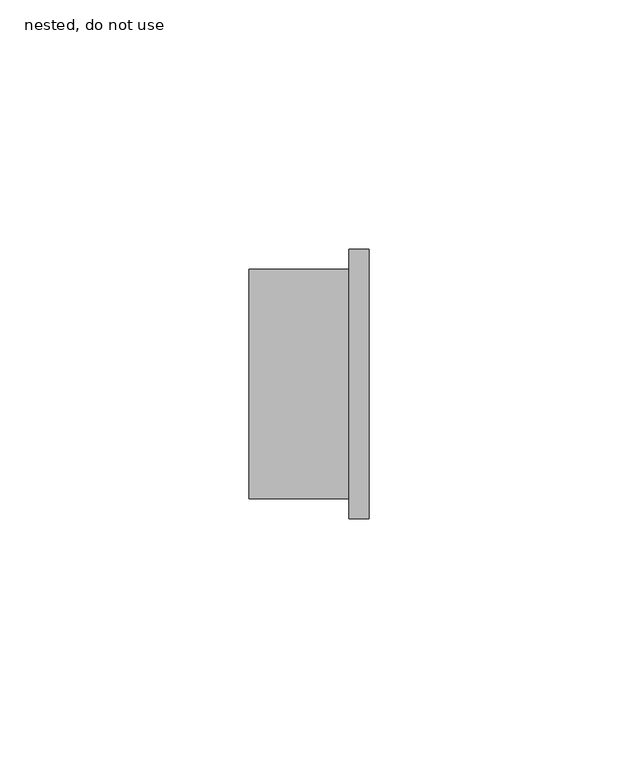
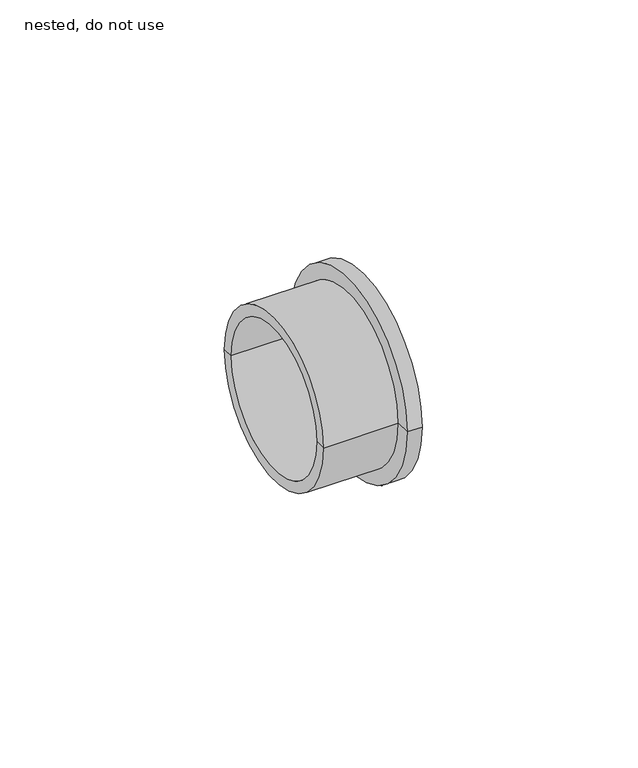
"""IFC4 building model written with IfcOpenShell, lengths in millimetres: pipe fitting geometry, NLRS_52_PIF_UN_HDPE rubber sleeve -SH_Akatherm : nested, do not use."""

from ifc_helpers import new_model, si_unit, frame, origin, place, context, project, spatial, polyline, circle_curve, source, transform, mapped, element, save
from ifc_brep_helpers import plane_surface, cylinder_surface, revolved_surface, advanced_brep


def nested_do_not_use_269007d1(model_context):
    return source(origin(), model_context, "Body", "AdvancedBrep", [
        advanced_brep(
        [(8.0, -23.0, 0.0), (8.0, 23.0, 0.0), (8.0, 27.0, 0.0), (8.0, -27.0, 0.0), (-12.0, -23.0, 0.0), (-12.0, 23.0, 0.0), (-12.0, -20.0, 0.0), (-12.0, 20.0, 0.0), (12.0, -20.0, 0.0), (12.0, 20.0, 0.0), (12.0, -27.0, 0.0), (12.0, 27.0, 0.0)],
        [
            (0, 1, circle_curve(frame((8.0, 0.0, 0.0), z_axis=(1.0, 0.0, 0.0), x_axis=(0.0, 1.0, 0.0)), 23.0)),
            (1, 2),
            (2, 3, circle_curve(frame((8.0, 0.0, 0.0), z_axis=(-1.0, 0.0, 0.0), x_axis=(0.0, 1.0, 0.0)), 27.0)),
            (3, 0),
            (1, 0, circle_curve(frame((8.0, 0.0, 0.0), z_axis=(1.0, 0.0, 0.0), x_axis=(0.0, 1.0, 0.0)), 23.0)),
            (3, 2, circle_curve(frame((8.0, 0.0, 0.0), z_axis=(-1.0, 0.0, 0.0), x_axis=(0.0, 1.0, 0.0)), 27.0)),
            (4, 5, circle_curve(frame((-12.0, 0.0, 0.0), z_axis=(1.0, 0.0, 0.0), x_axis=(0.0, 1.0, 0.0)), 23.0)),
            (5, 1),
            (0, 4),
            (5, 4, circle_curve(frame((-12.0, 0.0, 0.0), z_axis=(1.0, 0.0, 0.0), x_axis=(0.0, 1.0, 0.0)), 23.0)),
            (6, 7, circle_curve(frame((-12.0, 0.0, 0.0), z_axis=(1.0, 0.0, 0.0), x_axis=(0.0, 1.0, 0.0)), 20.0)),
            (7, 5),
            (4, 6),
            (7, 6, circle_curve(frame((-12.0, 0.0, 0.0), z_axis=(1.0, 0.0, 0.0), x_axis=(0.0, 1.0, 0.0)), 20.0)),
            (8, 9, circle_curve(frame((12.0, 0.0, 0.0), z_axis=(1.0, 0.0, 0.0), x_axis=(0.0, 1.0, 0.0)), 20.0)),
            (9, 7),
            (6, 8),
            (9, 8, circle_curve(frame((12.0, 0.0, 0.0), z_axis=(1.0, 0.0, 0.0), x_axis=(0.0, 1.0, 0.0)), 20.0)),
            (10, 11, circle_curve(frame((12.0, 0.0, 0.0), z_axis=(1.0, 0.0, 0.0), x_axis=(0.0, 1.0, 0.0)), 27.0)),
            (11, 9),
            (8, 10),
            (11, 10, circle_curve(frame((12.0, 0.0, 0.0), z_axis=(1.0, 0.0, 0.0), x_axis=(0.0, 1.0, 0.0)), 27.0)),
            (2, 11),
            (10, 3),
        ],
        [
            plane_surface(frame((8.0, 0.0, 0.0), z_axis=(-1.0, 0.0, 0.0), x_axis=(0.0, 1.0, 0.0))),
            cylinder_surface(frame((-37.0, 0.0, 0.0), z_axis=(-1.0, 0.0, 0.0), x_axis=(0.0, 1.0, 0.0)), 23.0),
            plane_surface(frame((-12.0, 0.0, 0.0), z_axis=(-1.0, 0.0, 0.0), x_axis=(0.0, 1.0, 0.0))),
            revolved_surface(polyline([(-12.0, 20.0, 0.0), (12.0, 20.0, 0.0)]), (-37.0, 0.0, 0.0), (-1.0, 0.0, 0.0)),
            plane_surface(frame((12.0, 0.0, 0.0), z_axis=(1.0, 0.0, 0.0), x_axis=(0.0, 1.0, 0.0))),
            cylinder_surface(frame((-37.0, 0.0, 0.0), z_axis=(-1.0, 0.0, 0.0), x_axis=(0.0, 1.0, 0.0)), 27.0),
        ],
        [
            (0, [[1, 2, 3, 4]]),
            (0, [[5, -4, 6, -2]]),
            (1, [[7, 8, -1, 9]]),
            (1, [[10, -9, -5, -8]]),
            (2, [[11, 12, -7, 13]]),
            (2, [[14, -13, -10, -12]]),
            (3, [[15, 16, -11, 17]]),
            (3, [[18, -17, -14, -16]]),
            (4, [[19, 20, -15, 21]]),
            (4, [[22, -21, -18, -20]]),
            (5, [[-3, 23, -19, 24]]),
            (5, [[-6, -24, -22, -23]]),
        ],
    ),
    ])


if __name__ == "__main__":
    model = new_model("IFC4")
    model_context = context("Model", 3, world=origin())
    ifc_project = project(units=[si_unit("LENGTHUNIT", "METRE", prefix="MILLI")], contexts=[model_context])
    site = spatial("IfcSite", under=ifc_project)
    building = spatial("IfcBuilding", under=site)
    placement = place(None, origin())
    nested_do_not_use_shape = nested_do_not_use_269007d1(model_context)
    element("IfcPipeFitting", 1, ObjectType="NLRS_52_PIF_UN_HDPE rubber sleeve -SH_Akatherm : nested, do not use", at=placement, inside=building, context=model_context, shape_type="MappedRepresentation", body=[
        mapped(nested_do_not_use_shape, transform((0.0, 0.0, 0.0), x_axis=(1.0, 0.0, 0.0), y_axis=(0.0, 1.0, 0.0), z_axis=(0.0, 0.0, 1.0))),
    ])
    save(model, "model.ifc")
